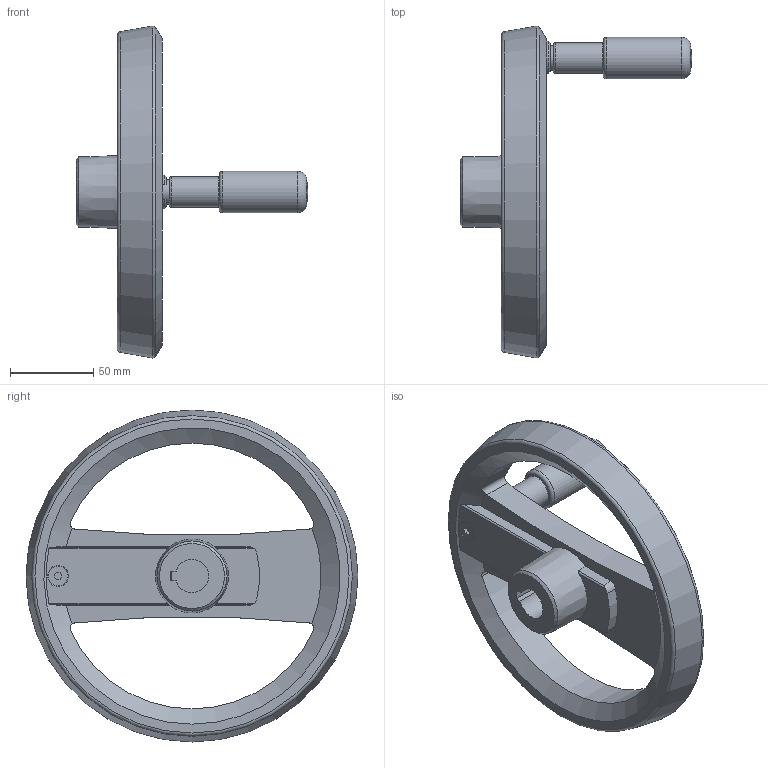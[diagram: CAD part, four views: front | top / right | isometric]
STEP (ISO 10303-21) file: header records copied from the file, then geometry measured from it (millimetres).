
FILE_DESCRIPTION( ( 'STEP AP203' ), '1' );
FILE_NAME( 'C:/Temp/Ganter_Step_05_03_2020/data/1_3/gn_924_7/gn_924_7_k/Handwheel with retractable handle GN 924.7-200-K20-R-SR (activated).stp', '2020-03-05T10:42:14', ( 'License CC BY-ND 4.0' ), ( 'CADENAS' ), ' ', 'PARTsolutions', ' ' );
FILE_SCHEMA( ( 'CONFIG_CONTROL_DESIGN' ) );
Length unit declared in the file: millimetre
Products named in the file (3): Handwheel with retractable handle GN 924.7-200-K20-R-SR (activated); _Umleggriff-Handrad GN 924.7-200-K20-R-SR-1; _Umleggriff-Handrad GN 924.7-200-K20-R-SR (90)-2
Assembly tree (2 placements, depth 2):
  Handwheel with retractable handle GN 924.7-200-K20-R-SR (activated)
    _Umleggriff-Handrad GN 924.7-200-K20-R-SR-1
    _Umleggriff-Handrad GN 924.7-200-K20-R-SR (90)-2
Bounding box: 139.2 x 199.58 x 199.58 mm (x, y, z)
Volume: 414896.5 mm3; surface area: 86133.4 mm2
Topology: 2 solids, 2 shells, 105 faces, 273 edges, 175 vertices
Faces by surface type: plane 45, cylinder 40, cone 10, torus 8, sphere 2
Full cylindrical faces by diameter (mm): 4 x4, 5 x1, 8 x1, 12 x1, 15 x1, 18.5 x1, 20 x1, 25 x2, 26.6 x1
Entity records: 3485 total; most frequent: CARTESIAN_POINT 964, DIRECTION 510, ORIENTED_EDGE 462, EDGE_CURVE 231, AXIS2_PLACEMENT_3D 208, VERTEX_POINT 167, EDGE_LOOP 147, FACE_OUTER_BOUND 125
